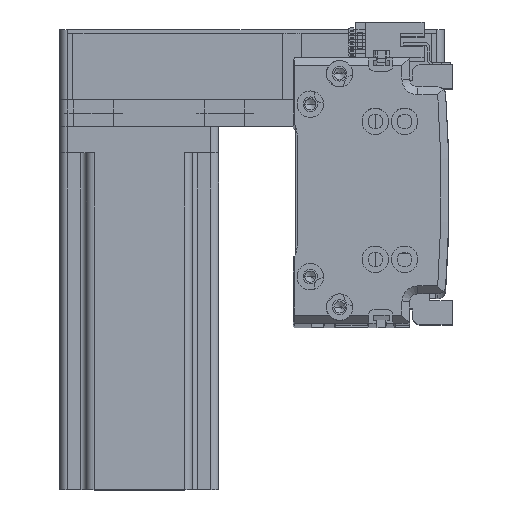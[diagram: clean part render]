
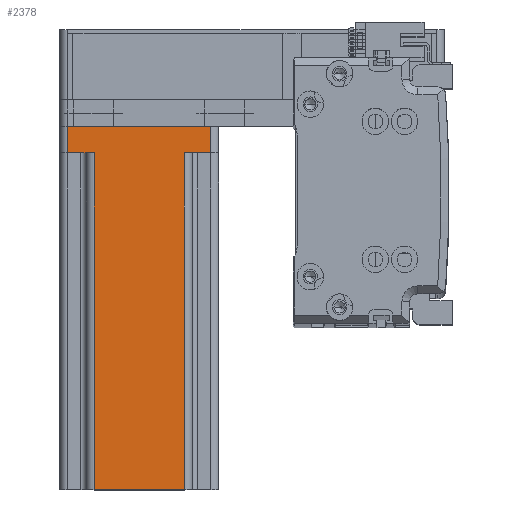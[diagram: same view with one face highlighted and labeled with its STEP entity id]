
A CAD part, top view. The second image highlights one B-rep face of the part: STEP entity #2378.
In plain terms, the highlighted planar face has unit normal (0, 0, 1) as drawn and (0, -1, 0) by its records, which use the part's own axes.
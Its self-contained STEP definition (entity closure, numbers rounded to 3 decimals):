
#1067 = DIRECTION ( 'NONE',  ( 0., 0., -1. ) ) ;
#1376 = LINE ( 'NONE', #13952, #20772 ) ;
#1634 = VERTEX_POINT ( 'NONE', #35429 ) ;
#2020 = DIRECTION ( 'NONE',  ( 0., 0., -1. ) ) ;
#2121 = AXIS2_PLACEMENT_3D ( 'NONE', #24266, #24093, #23897 ) ;
#2305 = CARTESIAN_POINT ( 'NONE',  ( 27., -30., 10. ) ) ;
#2378 = ADVANCED_FACE ( 'NONE', ( #4130 ), #27173, .F. ) ;
#3102 = DIRECTION ( 'NONE',  ( 0., 0., 1. ) ) ;
#3386 = VERTEX_POINT ( 'NONE', #32803 ) ;
#3885 = VERTEX_POINT ( 'NONE', #17461 ) ;
#4130 = FACE_OUTER_BOUND ( 'NONE', #24172, .T. ) ;
#4683 = EDGE_CURVE ( 'NONE', #24475, #42462, #6870, .T. ) ;
#5556 = CARTESIAN_POINT ( 'NONE',  ( -17., -30., 10. ) ) ;
#6870 = LINE ( 'NONE', #35868, #16611 ) ;
#7779 = LINE ( 'NONE', #12621, #36763 ) ;
#8016 = VECTOR ( 'NONE', #10055, 1000. ) ;
#8234 = VECTOR ( 'NONE', #1067, 1000. ) ;
#8505 = EDGE_CURVE ( 'NONE', #24475, #3885, #28982, .T. ) ;
#8816 = ORIENTED_EDGE ( 'NONE', *, *, #16571, .T. ) ;
#9692 = CARTESIAN_POINT ( 'NONE',  ( 17., -30., 10. ) ) ;
#10055 = DIRECTION ( 'NONE',  ( 1., 0., 0. ) ) ;
#10162 = DIRECTION ( 'NONE',  ( 1., 0., 0. ) ) ;
#11018 = DIRECTION ( 'NONE',  ( 1., 0., 0. ) ) ;
#12621 = CARTESIAN_POINT ( 'NONE',  ( 20., -30., 10. ) ) ;
#13581 = VERTEX_POINT ( 'NONE', #9692 ) ;
#13952 = CARTESIAN_POINT ( 'NONE',  ( 27., -30., 137. ) ) ;
#16136 = ORIENTED_EDGE ( 'NONE', *, *, #24444, .T. ) ;
#16571 = EDGE_CURVE ( 'NONE', #3386, #42462, #25225, .T. ) ;
#16611 = VECTOR ( 'NONE', #11018, 1000. ) ;
#16836 = ORIENTED_EDGE ( 'NONE', *, *, #36257, .F. ) ;
#17461 = CARTESIAN_POINT ( 'NONE',  ( -27., -30., 0. ) ) ;
#18090 = ORIENTED_EDGE ( 'NONE', *, *, #25483, .T. ) ;
#20772 = VECTOR ( 'NONE', #42656, 1000. ) ;
#22611 = CARTESIAN_POINT ( 'NONE',  ( -17., -30., 137. ) ) ;
#23897 = DIRECTION ( 'NONE',  ( -1., 0., 0. ) ) ;
#24093 = DIRECTION ( 'NONE',  ( 0., 1., 0. ) ) ;
#24172 = EDGE_LOOP ( 'NONE', ( #16836, #8816, #45692, #33542, #44982, #46282, #16136, #18090 ) ) ;
#24266 = CARTESIAN_POINT ( 'NONE',  ( 30., -30., 137. ) ) ;
#24444 = EDGE_CURVE ( 'NONE', #46268, #13581, #7779, .T. ) ;
#24475 = VERTEX_POINT ( 'NONE', #33358 ) ;
#25225 = LINE ( 'NONE', #22611, #26518 ) ;
#25483 = EDGE_CURVE ( 'NONE', #13581, #45602, #37220, .T. ) ;
#26518 = VECTOR ( 'NONE', #2020, 1000. ) ;
#26666 = CARTESIAN_POINT ( 'NONE',  ( 30., -30., 0. ) ) ;
#27173 = PLANE ( 'NONE',  #2121 ) ;
#28982 = LINE ( 'NONE', #34079, #8234 ) ;
#30262 = VECTOR ( 'NONE', #3102, 1000. ) ;
#30809 = LINE ( 'NONE', #26666, #51260 ) ;
#32370 = CARTESIAN_POINT ( 'NONE',  ( 17., -30., 137. ) ) ;
#32803 = CARTESIAN_POINT ( 'NONE',  ( -17., -30., 137. ) ) ;
#33358 = CARTESIAN_POINT ( 'NONE',  ( -27., -30., 10. ) ) ;
#33542 = ORIENTED_EDGE ( 'NONE', *, *, #8505, .T. ) ;
#34079 = CARTESIAN_POINT ( 'NONE',  ( -27., -30., 137. ) ) ;
#35429 = CARTESIAN_POINT ( 'NONE',  ( 27., -30., 0. ) ) ;
#35868 = CARTESIAN_POINT ( 'NONE',  ( -20., -30., 10. ) ) ;
#36257 = EDGE_CURVE ( 'NONE', #3386, #45602, #50456, .T. ) ;
#36763 = VECTOR ( 'NONE', #41374, 1000. ) ;
#37113 = EDGE_CURVE ( 'NONE', #1634, #46268, #1376, .T. ) ;
#37220 = LINE ( 'NONE', #32370, #30262 ) ;
#38541 = CARTESIAN_POINT ( 'NONE',  ( 17., -30., 137. ) ) ;
#41374 = DIRECTION ( 'NONE',  ( -1., 0., 0. ) ) ;
#42462 = VERTEX_POINT ( 'NONE', #5556 ) ;
#42656 = DIRECTION ( 'NONE',  ( 0., 0., 1. ) ) ;
#44982 = ORIENTED_EDGE ( 'NONE', *, *, #45178, .T. ) ;
#45178 = EDGE_CURVE ( 'NONE', #3885, #1634, #30809, .T. ) ;
#45602 = VERTEX_POINT ( 'NONE', #38541 ) ;
#45692 = ORIENTED_EDGE ( 'NONE', *, *, #4683, .F. ) ;
#46268 = VERTEX_POINT ( 'NONE', #2305 ) ;
#46282 = ORIENTED_EDGE ( 'NONE', *, *, #37113, .T. ) ;
#47071 = CARTESIAN_POINT ( 'NONE',  ( 30., -30., 137. ) ) ;
#50456 = LINE ( 'NONE', #47071, #8016 ) ;
#51260 = VECTOR ( 'NONE', #10162, 1000. ) ;
